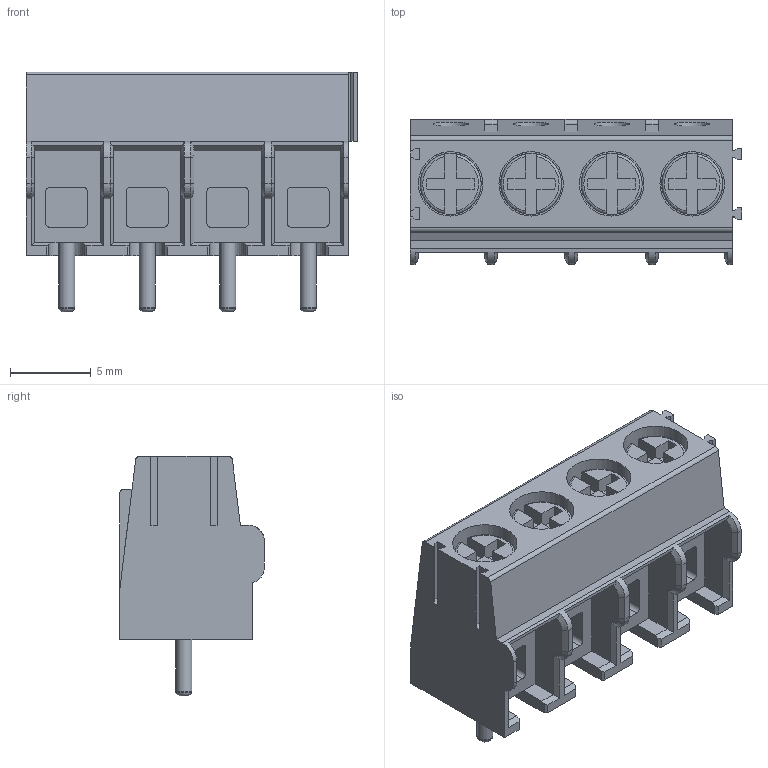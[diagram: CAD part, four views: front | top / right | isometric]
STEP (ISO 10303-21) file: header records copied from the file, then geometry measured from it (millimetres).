
FILE_DESCRIPTION( ( '' ), ' ' );
FILE_NAME( '/vol/tmp/translate-272805156289581885/5a81b1cd218f6a0c056d2378.step', '2018-02-12T15:25:02', ( '' ), ( '' ), ' ', ' ', ' ' );
FILE_SCHEMA( ( 'AUTOMOTIVE_DESIGN { 1 0 10303 214 1 1 1 1 }' ) );
Length unit declared in the file: metre
Products named in the file (1): Open CASCADE STEP translator 6.8 1
Bounding box: 20.57 x 9 x 14.9 mm (x, y, z)
Volume: 1414.3 mm3; surface area: 1437.4 mm2
Topology: 1 solids, 1 shells, 341 faces, 905 edges, 590 vertices
Faces by surface type: plane 236, cylinder 69, cone 20, torus 8, revolution 8
Full cylindrical faces by diameter (mm): 0.457 x1, 1 x4, 2.2 x4, 4 x4
Entity records: 18372 total; most frequent: CARTESIAN_POINT 2892, ORIENTED_EDGE 1736, DIRECTION 1702, STYLED_ITEM 1209, PRESENTATION_STYLE_ASSIGNMENT 1209, COLOUR_RGB 1209, EDGE_CURVE 868, CURVE_STYLE 868
